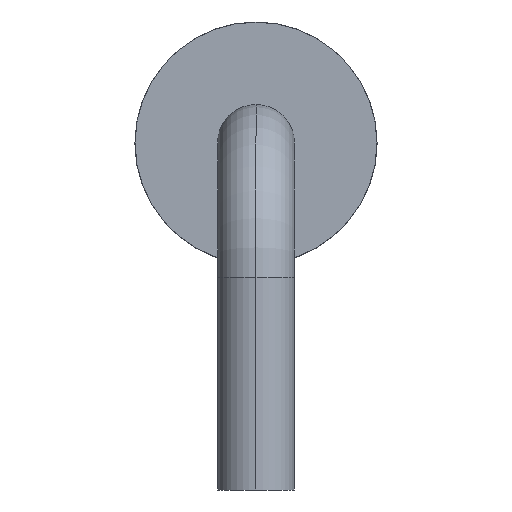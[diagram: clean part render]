
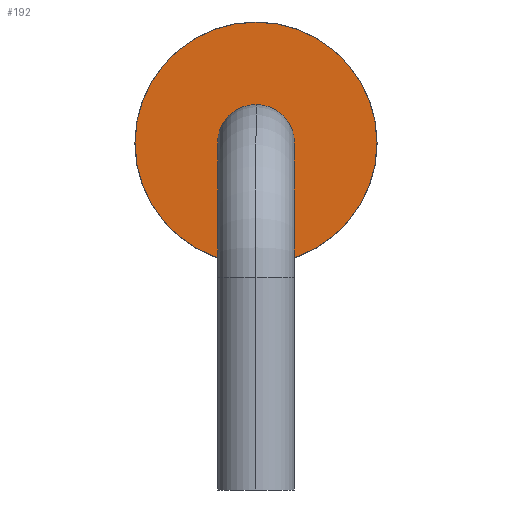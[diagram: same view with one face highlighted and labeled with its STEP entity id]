
A CAD part, left-side view. The second image highlights one B-rep face of the part: STEP entity #192.
In plain terms, the highlighted planar face has unit normal (-1, 0, 0).
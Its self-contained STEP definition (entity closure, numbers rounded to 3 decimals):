
#192=ADVANCED_FACE($,(#198),#194,.T.);
#194=PLANE($,#219);
#198=FACE_OUTER_BOUND($,#202,.T.);
#202=EDGE_LOOP($,(#212));
#203=CIRCLE($,#216,1.359);
#205=VERTEX_POINT('',#234);
#207=EDGE_CURVE($,#205,#205,#203,.T.);
#212=ORIENTED_EDGE($,*,*,#207,.T.);
#216=AXIS2_PLACEMENT_3D($,#235,#224,#225);
#219=AXIS2_PLACEMENT_3D($,#239,#230,#231);
#224=DIRECTION('',(-1.,0.,0.));
#225=DIRECTION('',(0.,0.,1.));
#230=DIRECTION('',(-1.,0.,0.));
#231=DIRECTION('',(0.,1.,0.));
#234=CARTESIAN_POINT('',(3.436,0.0,0.0));
#235=CARTESIAN_POINT('',(3.436,0.0,1.359));
#239=CARTESIAN_POINT('',(3.436,0.0,1.359));
